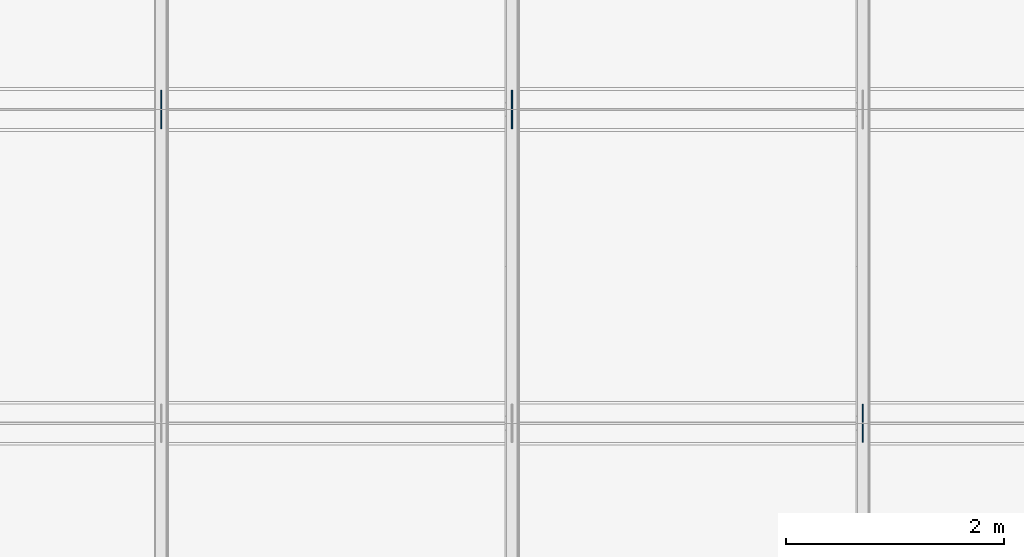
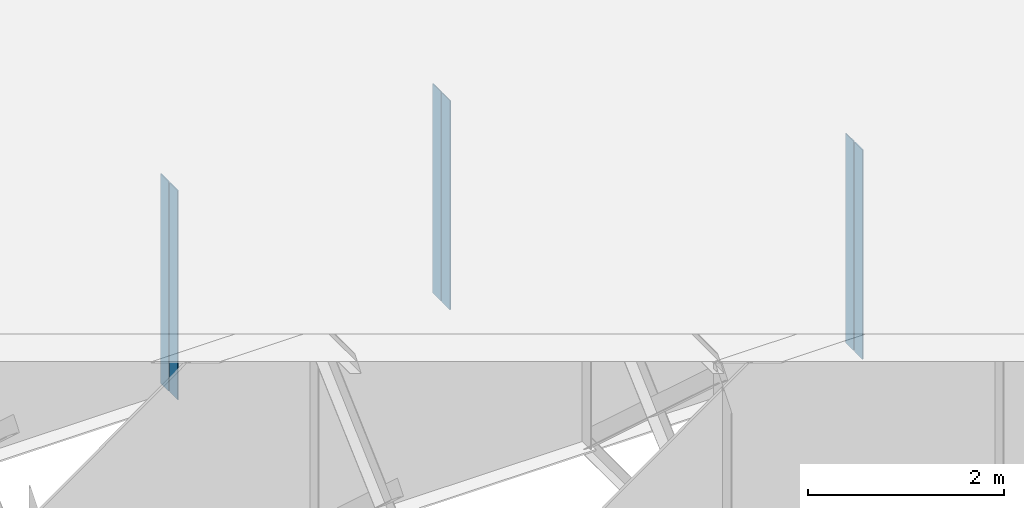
# One storey, part 8 of 13: 6 plates.
"""IFC4 building model written with IfcOpenShell, lengths in metres."""

from ifc_helpers import new_model, si_unit, frame, origin, origin_with_axes, origin_2d_with_axis, place, context, subcontext, project, spatial, rectangle, extrude, element, save


model = new_model("IFC4")

# Units and contexts
model_context = context("Model", 3, precision=1e-05, world=origin())
body_context = subcontext(model_context, "Body", "Model", "MODEL_VIEW")
ifc_project = project(units=[si_unit("LENGTHUNIT", "METRE"), si_unit("AREAUNIT", "SQUARE_METRE"), si_unit("VOLUMEUNIT", "CUBIC_METRE"), si_unit("PLANEANGLEUNIT", "RADIAN")], contexts=[model_context])

# Site, building, storey
site_placement = place(None, origin_with_axes())
site = spatial("IfcSite", under=ifc_project, at=site_placement, Name="Default Site")
building_placement = place(site_placement, origin_with_axes())
building = spatial("IfcBuilding", under=site, at=building_placement, Name="Bridge Structure")
storey_placement = place(building_placement, origin_with_axes())
storey = spatial("IfcBuildingStorey", under=building, at=storey_placement, Name="Superstructure")

# Plates
for number, where, z_axis, x_axis, name in (
    (1, (22.498, -1.3455, -1.307), (0.0, 0.0, 1.0), (1.0, 0.0, 0.0), "Intermediate Stiffener 2"),
    (2, (22.498, -1.5295, -1.307), (0.0, 0.0, 1.0), (1.0, 0.0, 0.0), "Intermediate Stiffener 2"),
    (3, (16.07, 1.5295, -1.307), (0.0, 0.0, 1.0), (1.0, 0.0, 0.0), "Intermediate Stiffener 3"),
    (4, (16.07, 1.3455, -1.307), (0.0, 0.0, 1.0), (1.0, 0.0, 0.0), "Intermediate Stiffener 3"),
    (5, (19.284, 1.5295, -1.307), (0.0, 0.0, 1.0), (1.0, 0.0, 0.0), "Intermediate Stiffener 3"),
    (6, (19.284, 1.3455, -1.307), (0.0, 0.0, 1.0), (1.0, 0.0, 0.0), "Intermediate Stiffener 3"),
):
    element("IfcPlate", number, at=place(storey_placement, frame(where, z_axis=z_axis, x_axis=x_axis)), inside=storey, Name=name, context=body_context, shape_type="SweptSolid", body=[
        extrude(rectangle(XDim=0.012, YDim=0.166, at=origin_2d_with_axis()), origin_with_axes(), (0.0, 0.0, 1.0), 2.614),
    ])

save(model, "model.ifc")
